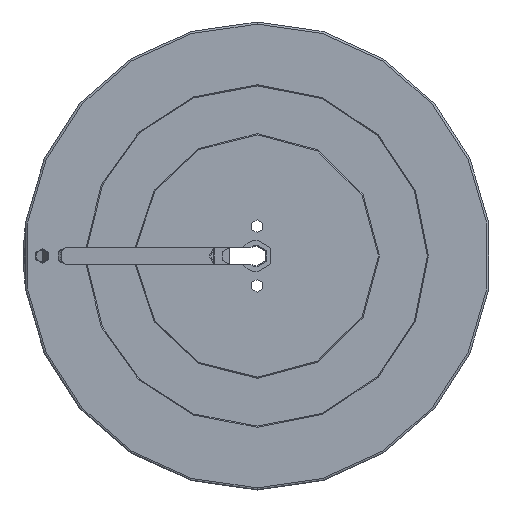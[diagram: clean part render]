
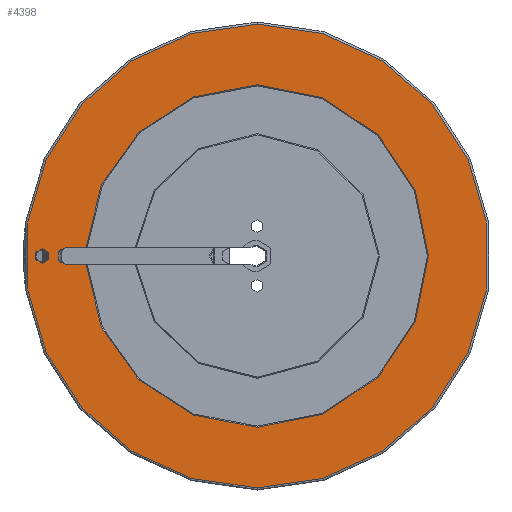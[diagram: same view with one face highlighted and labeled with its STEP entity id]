
A CAD part, front view. The second image highlights one B-rep face of the part: STEP entity #4398.
In plain terms, the highlighted planar face has unit normal (0, -1, 0).
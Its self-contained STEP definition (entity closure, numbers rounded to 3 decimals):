
#116 = LINE ( 'NONE', #8595, #6875 ) ;
#187 = CARTESIAN_POINT ( 'NONE',  ( -87.799, 10.513, -41.312 ) ) ;
#228 = CIRCLE ( 'NONE', #5910, 3.5 ) ;
#254 = EDGE_LOOP ( 'NONE', ( #4904, #4927, #3081, #7758, #5613, #7290 ) ) ;
#492 = DIRECTION ( 'NONE',  ( 0., 0., -1. ) ) ;
#711 = CARTESIAN_POINT ( 'NONE',  ( -87.799, 10.513, 148.188 ) ) ;
#819 = EDGE_CURVE ( 'NONE', #1588, #2434, #8240, .T. ) ;
#1061 = VERTEX_POINT ( 'NONE', #2979 ) ;
#1068 = DIRECTION ( 'NONE',  ( 0., 1., 0. ) ) ;
#1078 = DIRECTION ( 'NONE',  ( 1., 0., 0. ) ) ;
#1102 = EDGE_CURVE ( 'NONE', #5465, #4693, #4274, .T. ) ;
#1251 = EDGE_CURVE ( 'NONE', #2693, #5465, #5443, .T. ) ;
#1340 = DIRECTION ( 'NONE',  ( 0., 1., 0. ) ) ;
#1345 = AXIS2_PLACEMENT_3D ( 'NONE', #1907, #1782, #6673 ) ;
#1546 = EDGE_LOOP ( 'NONE', ( #6415, #6599 ) ) ;
#1588 = VERTEX_POINT ( 'NONE', #7704 ) ;
#1739 = DIRECTION ( 'NONE',  ( 0., 1., 0. ) ) ;
#1782 = DIRECTION ( 'NONE',  ( 0., 1., 0. ) ) ;
#1807 = CARTESIAN_POINT ( 'NONE',  ( -188.799, 10.513, 39.188 ) ) ;
#1898 = DIRECTION ( 'NONE',  ( 0., -1., 0. ) ) ;
#1907 = CARTESIAN_POINT ( 'NONE',  ( -87.799, 10.513, 39.188 ) ) ;
#1974 = DIRECTION ( 'NONE',  ( 0., 0., -1. ) ) ;
#2149 = CARTESIAN_POINT ( 'NONE',  ( -177.799, 10.513, 43.188 ) ) ;
#2358 = CARTESIAN_POINT ( 'NONE',  ( -168.199, 10.513, 43.188 ) ) ;
#2412 = VECTOR ( 'NONE', #1078, 1000. ) ;
#2434 = VERTEX_POINT ( 'NONE', #711 ) ;
#2452 = CIRCLE ( 'NONE', #5664, 3.5 ) ;
#2523 = AXIS2_PLACEMENT_3D ( 'NONE', #5795, #8570, #3609 ) ;
#2674 = DIRECTION ( 'NONE',  ( 0., 0., -1. ) ) ;
#2693 = VERTEX_POINT ( 'NONE', #6061 ) ;
#2979 = CARTESIAN_POINT ( 'NONE',  ( -177.799, 10.513, 35.188 ) ) ;
#3081 = ORIENTED_EDGE ( 'NONE', *, *, #1251, .T. ) ;
#3237 = VERTEX_POINT ( 'NONE', #4450 ) ;
#3241 = CARTESIAN_POINT ( 'NONE',  ( -87.799, 10.513, 43.188 ) ) ;
#3320 = CARTESIAN_POINT ( 'NONE',  ( 21.201, 10.513, 39.188 ) ) ;
#3523 = AXIS2_PLACEMENT_3D ( 'NONE', #8217, #7640, #1974 ) ;
#3534 = DIRECTION ( 'NONE',  ( 1., 0., 0. ) ) ;
#3550 = EDGE_LOOP ( 'NONE', ( #7747, #7591 ) ) ;
#3609 = DIRECTION ( 'NONE',  ( 0., 0., -1. ) ) ;
#3783 = EDGE_CURVE ( 'NONE', #6271, #3237, #2452, .T. ) ;
#3999 = CARTESIAN_POINT ( 'NONE',  ( -188.799, 10.513, 39.188 ) ) ;
#4274 = CIRCLE ( 'NONE', #8832, 80.5 ) ;
#4398 = ADVANCED_FACE ( 'NONE', ( #8179, #4655, #5972 ), #6602, .T. ) ;
#4435 = CARTESIAN_POINT ( 'NONE',  ( -87.799, 10.513, 39.188 ) ) ;
#4450 = CARTESIAN_POINT ( 'NONE',  ( -188.799, 10.513, 35.688 ) ) ;
#4519 = CARTESIAN_POINT ( 'NONE',  ( -87.799, 10.513, 39.188 ) ) ;
#4596 = CARTESIAN_POINT ( 'NONE',  ( -188.799, 10.513, 42.688 ) ) ;
#4610 = AXIS2_PLACEMENT_3D ( 'NONE', #4519, #1068, #8036 ) ;
#4655 = FACE_BOUND ( 'NONE', #254, .T. ) ;
#4683 = AXIS2_PLACEMENT_3D ( 'NONE', #3320, #1898, #6655 ) ;
#4693 = VERTEX_POINT ( 'NONE', #7587 ) ;
#4904 = ORIENTED_EDGE ( 'NONE', *, *, #7983, .T. ) ;
#4927 = ORIENTED_EDGE ( 'NONE', *, *, #8287, .T. ) ;
#5075 = DIRECTION ( 'NONE',  ( 0., 1., 0. ) ) ;
#5443 = CIRCLE ( 'NONE', #1345, 80.5 ) ;
#5465 = VERTEX_POINT ( 'NONE', #187 ) ;
#5476 = VERTEX_POINT ( 'NONE', #2358 ) ;
#5613 = ORIENTED_EDGE ( 'NONE', *, *, #6129, .F. ) ;
#5664 = AXIS2_PLACEMENT_3D ( 'NONE', #3999, #1340, #2674 ) ;
#5795 = CARTESIAN_POINT ( 'NONE',  ( -87.799, 10.513, 39.188 ) ) ;
#5910 = AXIS2_PLACEMENT_3D ( 'NONE', #1807, #8325, #492 ) ;
#5972 = FACE_OUTER_BOUND ( 'NONE', #3550, .T. ) ;
#6061 = CARTESIAN_POINT ( 'NONE',  ( -87.799, 10.513, 119.688 ) ) ;
#6129 = EDGE_CURVE ( 'NONE', #1061, #4693, #116, .T. ) ;
#6271 = VERTEX_POINT ( 'NONE', #4596 ) ;
#6331 = EDGE_CURVE ( 'NONE', #2434, #1588, #7760, .T. ) ;
#6372 = AXIS2_PLACEMENT_3D ( 'NONE', #6630, #1739, #8716 ) ;
#6415 = ORIENTED_EDGE ( 'NONE', *, *, #8388, .T. ) ;
#6599 = ORIENTED_EDGE ( 'NONE', *, *, #3783, .T. ) ;
#6602 = PLANE ( 'NONE',  #4683 ) ;
#6617 = LINE ( 'NONE', #3241, #2412 ) ;
#6630 = CARTESIAN_POINT ( 'NONE',  ( -177.799, 10.513, 39.188 ) ) ;
#6639 = CIRCLE ( 'NONE', #4610, 80.5 ) ;
#6655 = DIRECTION ( 'NONE',  ( 0., 0., -1. ) ) ;
#6673 = DIRECTION ( 'NONE',  ( 0., 0., -1. ) ) ;
#6875 = VECTOR ( 'NONE', #3534, 1000. ) ;
#6980 = VERTEX_POINT ( 'NONE', #2149 ) ;
#7290 = ORIENTED_EDGE ( 'NONE', *, *, #8945, .T. ) ;
#7587 = CARTESIAN_POINT ( 'NONE',  ( -168.199, 10.513, 35.188 ) ) ;
#7591 = ORIENTED_EDGE ( 'NONE', *, *, #6331, .T. ) ;
#7640 = DIRECTION ( 'NONE',  ( 0., -1., 0. ) ) ;
#7704 = CARTESIAN_POINT ( 'NONE',  ( -87.799, 10.513, -69.812 ) ) ;
#7747 = ORIENTED_EDGE ( 'NONE', *, *, #819, .T. ) ;
#7758 = ORIENTED_EDGE ( 'NONE', *, *, #1102, .T. ) ;
#7760 = CIRCLE ( 'NONE', #3523, 109. ) ;
#7958 = DIRECTION ( 'NONE',  ( 0., 0., -1. ) ) ;
#7983 = EDGE_CURVE ( 'NONE', #6980, #5476, #6617, .T. ) ;
#8036 = DIRECTION ( 'NONE',  ( 0., 0., -1. ) ) ;
#8179 = FACE_BOUND ( 'NONE', #1546, .T. ) ;
#8217 = CARTESIAN_POINT ( 'NONE',  ( -87.799, 10.513, 39.188 ) ) ;
#8240 = CIRCLE ( 'NONE', #2523, 109. ) ;
#8287 = EDGE_CURVE ( 'NONE', #5476, #2693, #6639, .T. ) ;
#8325 = DIRECTION ( 'NONE',  ( 0., 1., 0. ) ) ;
#8388 = EDGE_CURVE ( 'NONE', #3237, #6271, #228, .T. ) ;
#8570 = DIRECTION ( 'NONE',  ( 0., -1., 0. ) ) ;
#8595 = CARTESIAN_POINT ( 'NONE',  ( -95.299, 10.513, 35.188 ) ) ;
#8716 = DIRECTION ( 'NONE',  ( 0., 0., -1. ) ) ;
#8832 = AXIS2_PLACEMENT_3D ( 'NONE', #4435, #5075, #7958 ) ;
#8870 = CIRCLE ( 'NONE', #6372, 4. ) ;
#8945 = EDGE_CURVE ( 'NONE', #1061, #6980, #8870, .T. ) ;
